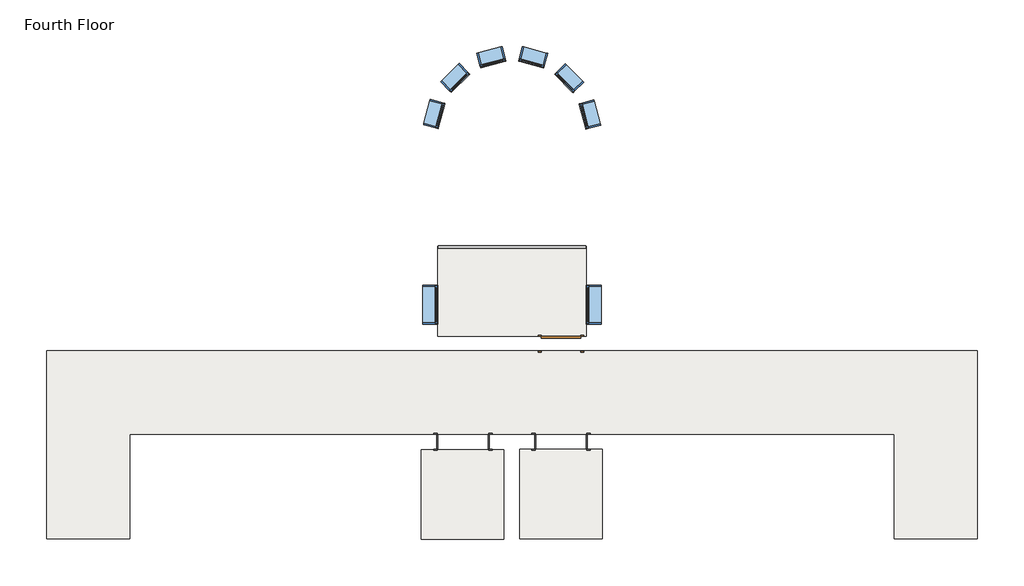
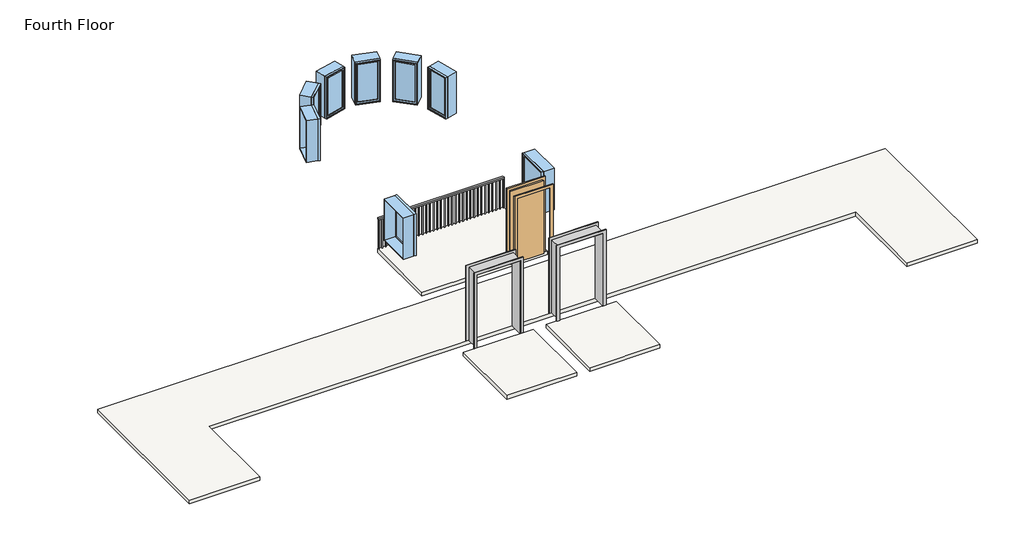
# One storey: 8 windows, 2 proxies, 1 door, 1 railing, 1 slab.
"""IFC4 building model written with IfcOpenShell, lengths in millimetres."""

import ifcopenshell
import ifcopenshell.guid

model = None  # the IFC model being written
_history = None  # IfcOwnerHistory: only IFC2X3 demands one
_inside = {}  # id of a spatial element -> (the spatial element, [elements in it])
_under = {}  # id of a project, library or spatial element -> (it, [spatial elements below it])
_declared = {}  # id of a project -> (the project, [libraries it declares])
_typed = {}  # id of a type object -> (the type object, [elements of that type])
_made_of = {}  # id of a material, layer set ... -> (it, [elements and type objects made of it])


def new_model(schema):
    """Start an empty IFC model of exactly this schema.

    Asked for "IFC4X3", IfcOpenShell would pick the latest addendum, in which some entities
    have other attributes; the version numbers below select the first issue.
    IFC2X3 requires an IfcOwnerHistory on every rooted entity: one is made here for all.
    """
    global model, _history
    if schema == "IFC4X3":
        model = ifcopenshell.file(schema_version=(4, 3, 0, 0))
    else:
        model = ifcopenshell.file(schema=schema)
    _inside.clear()
    _under.clear()
    _declared.clear()
    _typed.clear()
    _made_of.clear()
    _history = None
    if model.schema == "IFC2X3":
        org = make("IfcOrganization", Name="unknown")
        user = make(
            "IfcPersonAndOrganization",
            ThePerson=make("IfcPerson", FamilyName="unknown"),
            TheOrganization=org,
        )
        app = make(
            "IfcApplication",
            ApplicationDeveloper=org,
            Version="unknown",
            ApplicationFullName="unknown",
            ApplicationIdentifier="unknown",
        )
        _history = make(
            "IfcOwnerHistory",
            OwningUser=user,
            OwningApplication=app,
            ChangeAction="ADDED",
            CreationDate=0,
        )
    return model


def make(cls, **values):
    """One entity of the class cls with the attributes given. An attribute that is None is left unset."""
    return model.create_entity(
        cls, **{name: value for name, value in values.items() if value is not None}
    )


def rooted(cls, **values):
    """An entity with a GlobalId (a new one), such as an element, a storey or a relation."""
    return make(cls, GlobalId=ifcopenshell.guid.new(), OwnerHistory=_history, **values)


def si_unit(unit_type, name, prefix=None):
    """IfcSIUnit, for example si_unit("LENGTHUNIT", "METRE", prefix="MILLI")."""
    return make("IfcSIUnit", UnitType=unit_type, Prefix=prefix, Name=name)


def assignment(units):
    """IfcUnitAssignment: the units of a project."""
    return None if units is None else make("IfcUnitAssignment", Units=units)


def point(xyz):
    """IfcCartesianPoint."""
    return None if xyz is None else make("IfcCartesianPoint", Coordinates=xyz)


def direction(xyz):
    """IfcDirection."""
    return None if xyz is None else make("IfcDirection", DirectionRatios=xyz)


def frame(location, z_axis=None, x_axis=None):
    """IfcAxis2Placement3D, a coordinate frame: its origin and axes. An axis left out is left unset."""
    return make(
        "IfcAxis2Placement3D",
        Location=point(location),
        Axis=direction(z_axis),
        RefDirection=direction(x_axis),
    )


def origin():
    """The frame at (0, 0, 0) with its axes left unset."""
    return frame((0.0, 0.0, 0.0))


def origin_with_axes():
    """The frame at (0, 0, 0) with the z axis (0, 0, 1) and the x axis (1, 0, 0) written out."""
    return frame((0.0, 0.0, 0.0), z_axis=(0.0, 0.0, 1.0), x_axis=(1.0, 0.0, 0.0))


def place(relative_to, where):
    """IfcLocalPlacement: puts the frame where relative to a parent placement (None: the world)."""
    return make(
        "IfcLocalPlacement", PlacementRelTo=relative_to, RelativePlacement=where
    )


def context(
    kind, dimensions, precision=None, world=None, true_north=None, identifier=None
):
    """IfcGeometricRepresentationContext, for example the 3D "Model" context."""
    return make(
        "IfcGeometricRepresentationContext",
        ContextIdentifier=identifier,
        ContextType=kind,
        CoordinateSpaceDimension=dimensions,
        Precision=precision,
        WorldCoordinateSystem=world,
        TrueNorth=true_north,
    )


def project(units=None, contexts=None):
    """IfcProject with its units and contexts."""
    return rooted(
        "IfcProject",
        Name="project",
        RepresentationContexts=contexts,
        UnitsInContext=assignment(units),
    )


def spatial(cls, under=None, at=None, **own):
    """A site, building, storey or space (cls), placed at a placement, below another one or the project."""
    s = rooted(cls, ObjectPlacement=at, **own)
    if under is not None:
        _under.setdefault(under.id(), (under, []))[1].append(s)
    return s


def polyline(points):
    """IfcPolyline through the points."""
    return make("IfcPolyline", Points=[point(p) for p in points])


def outline(outer, holes=None, kind="AREA"):
    """IfcArbitraryClosedProfileDef: a profile drawn as a closed curve; with holes, ...WithVoids."""
    if holes is None:
        return make("IfcArbitraryClosedProfileDef", ProfileType=kind, OuterCurve=outer)
    return make(
        "IfcArbitraryProfileDefWithVoids",
        ProfileType=kind,
        OuterCurve=outer,
        InnerCurves=holes,
    )


def extrude(swept, where, along, depth):
    """IfcExtrudedAreaSolid: the profile swept, set in the frame where, extruded along a direction by depth."""
    return make(
        "IfcExtrudedAreaSolid",
        SweptArea=swept,
        Position=where,
        ExtrudedDirection=direction(along),
        Depth=depth,
    )


def faces_of(points, faces, orient=None, outer=None):
    """IfcFace entities. A face is a list of loops; a loop is a list of indices into points, from 0.

    orient and outer hold one flag for each loop. By default every Orientation is true, the
    first loop of a face is its IfcFaceOuterBound and the others are IfcFaceBound.
    """
    made = []
    for i, loops in enumerate(faces):
        bounds = []
        for j, loop in enumerate(loops):
            is_outer = j == 0 if outer is None else outer[i][j]
            bounds.append(
                make(
                    "IfcFaceOuterBound" if is_outer else "IfcFaceBound",
                    Bound=make("IfcPolyLoop", Polygon=[points[k] for k in loop]),
                    Orientation=True if orient is None else orient[i][j],
                )
            )
        made.append(make("IfcFace", Bounds=bounds))
    return made


def faceted_brep(points, faces, orient=None, outer=None, voids=None):
    """IfcFacetedBrep: a solid bounded by flat faces; with voids (closed shells), ...WithVoids."""
    shared = [point(p) for p in points]
    hull = make("IfcClosedShell", CfsFaces=faces_of(shared, faces, orient, outer))
    if voids is None:
        return make("IfcFacetedBrep", Outer=hull)
    return make(
        "IfcFacetedBrepWithVoids",
        Outer=hull,
        Voids=[
            make(cls, CfsFaces=faces_of(shared, fs, o, b)) for cls, fs, o, b in voids
        ],
    )


def shape(context_of_items, identifier, shape_type, items):
    """IfcShapeRepresentation: the items that make up one representation, for example the "Body"."""
    return make(
        "IfcShapeRepresentation",
        ContextOfItems=context_of_items,
        RepresentationIdentifier=identifier,
        RepresentationType=shape_type,
        Items=items,
    )


def source(mapping_origin, context_of_items, identifier, shape_type, items):
    """IfcRepresentationMap: a shape defined once, which mapped items show again and again."""
    return make(
        "IfcRepresentationMap",
        MappingOrigin=mapping_origin,
        MappedRepresentation=shape(context_of_items, identifier, shape_type, items),
    )


def transform(
    local_origin,
    x_axis=None,
    y_axis=None,
    z_axis=None,
    scale=None,
    scale2=None,
    scale3=None,
    uniform=True,
):
    """IfcCartesianTransformationOperator3D, or its non-uniform kind. x_axis, y_axis, z_axis: its Axis1, 2, 3."""
    if uniform:
        return make(
            "IfcCartesianTransformationOperator3D",
            Axis1=direction(x_axis),
            Axis2=direction(y_axis),
            LocalOrigin=point(local_origin),
            Scale=scale,
            Axis3=direction(z_axis),
        )
    return make(
        "IfcCartesianTransformationOperator3DnonUniform",
        Axis1=direction(x_axis),
        Axis2=direction(y_axis),
        LocalOrigin=point(local_origin),
        Scale=scale,
        Axis3=direction(z_axis),
        Scale2=scale2,
        Scale3=scale3,
    )


def mapped(mapping_source, mapping_target):
    """IfcMappedItem: shows the shape of a source again, moved by a transform."""
    return make(
        "IfcMappedItem", MappingSource=mapping_source, MappingTarget=mapping_target
    )


def made_of(thing, what):
    """Note that an element or type object is made of a material, layer set ...; save() writes the relation."""
    if what is not None:
        _made_of.setdefault(what.id(), (what, []))[1].append(thing)
    return thing


def element(
    cls,
    number,
    at=None,
    inside=None,
    cuts=None,
    type_object=None,
    material=None,
    context=None,
    identifier="Body",
    shape_type=None,
    held_by="IfcProductDefinitionShape",
    body=None,
    shapes=None,
    **own,
):
    """One element of the class cls, such as IfcWall. Its Tag is "e" and its number.

    at: its placement. inside: the storey or other place that contains it. cuts: it is an
    opening in that element (IfcRelVoidsElement). A single representation is given by context,
    identifier, shape_type and body (its items); several are given by shapes. held_by: the class
    of the entity that holds the representations. save() writes the other relations.
    """
    e = rooted(cls, Tag="e%d" % number, ObjectPlacement=at, **own)
    if body is not None:
        shapes = [shape(context, identifier, shape_type, body)]
    if shapes is not None:
        e.Representation = make(held_by, Representations=shapes)
    if inside is not None:
        _inside.setdefault(inside.id(), (inside, []))[1].append(e)
    if cuts is not None:
        rooted(
            "IfcRelVoidsElement", RelatingBuildingElement=cuts, RelatedOpeningElement=e
        )
    if type_object is not None:
        _typed.setdefault(type_object.id(), (type_object, []))[1].append(e)
    return made_of(e, material)


def aggregate(whole, parts):
    """IfcRelAggregates: a whole, such as a stair, and the parts it consists of."""
    return rooted("IfcRelAggregates", RelatingObject=whole, RelatedObjects=parts)


def save(model, path):
    """Write the relations noted so far, then the file.

    IfcRelAggregates (storeys below a building ...), IfcRelContainedInSpatialStructure (elements
    in a storey), IfcRelDefinesByType, IfcRelAssociatesMaterial and IfcRelDeclares: one each for
    every whole, place, type object, material and project.
    """
    for whole, parts in _under.values():
        aggregate(whole, parts)
    for where, things in _inside.values():
        rooted(
            "IfcRelContainedInSpatialStructure",
            RelatedElements=things,
            RelatingStructure=where,
        )
    for kind, things in _typed.values():
        rooted("IfcRelDefinesByType", RelatedObjects=things, RelatingType=kind)
    for what, things in _made_of.values():
        rooted("IfcRelAssociatesMaterial", RelatedObjects=things, RelatingMaterial=what)
    for by, libraries in _declared.values():
        rooted("IfcRelDeclares", RelatingContext=by, RelatedDefinitions=libraries)
    model.write(path)


def proxy_c3589814(model_context):
    return source(origin(), model_context, "Body", "SolidModel", [
        extrude(outline(polyline([(0.0, -611.4386567), (2127.25, -611.4386567), (2127.25, 595.0613433), (0.0, 595.0613433), (0.0, 671.2613433), (2203.45, 671.2613433), (2203.45, -687.6386567), (0.0, -687.6386567), (0.0, -611.4386567)])), frame((0.0, -195.2625, 0.0), z_axis=(0.0, 1.0, 0.0), x_axis=(0.0, 0.0, 1.0)), (0.0, 0.0, 1.0), 19.05),
        extrude(outline(polyline([(0.0, 671.2613433), (2209.8, 671.2613433), (2209.8, -687.6386567), (0.0, -687.6386567), (0.0, -611.4386567), (2127.25, -611.4386567), (2127.25, 595.0613433), (0.0, 595.0613433), (0.0, 671.2613433)])), frame((0.0, 176.2125, 0.0), z_axis=(0.0, 1.0, 0.0), x_axis=(0.0, 0.0, 1.0)), (0.0, 0.0, 1.0), 19.05),
        faceted_brep([(582.3613433, 176.2125, 0.0), (601.4113433, 176.2125, 0.0), (601.4113433, -176.2125, 0.0), (582.3613433, -176.2125, 0.0), (582.3613433, 176.2125, 2114.55), (601.4113433, 176.2125, 2133.6), (601.4113433, -176.2125, 2133.6), (582.3613433, -176.2125, 2114.55), (-598.7386567, 176.2125, 2114.55), (-617.7886567, 176.2125, 2133.6), (-617.7886567, -176.2125, 2133.6), (-598.7386567, -176.2125, 2114.55), (-598.7386567, 176.2125, 0.0), (-598.7386567, -176.2125, 0.0), (-617.7886567, -176.2125, 0.0), (-617.7886567, 176.2125, 0.0)], [[[0, 1, 2, 3]], [[1, 0, 4, 5]], [[2, 1, 5, 6]], [[3, 2, 6, 7]], [[0, 3, 7, 4]], [[5, 4, 8, 9]], [[6, 5, 9, 10]], [[7, 6, 10, 11]], [[4, 7, 11, 8]], [[12, 13, 14, 15]], [[9, 8, 12, 15]], [[10, 9, 15, 14]], [[11, 10, 14, 13]], [[8, 11, 13, 12]]]),
    ])


def door_632be17d(model_context):
    return source(origin(), model_context, "Body", "SweptSolid", [
        extrude(outline(polyline([(2209.8, -533.4), (0.0, -533.4), (0.0, -457.2), (2133.6, -457.2), (2133.6, 457.2), (0.0, 457.2), (0.0, 533.4), (2209.8, 533.4), (2209.8, -533.4)])), frame((0.0, 176.2125, 0.0), z_axis=(0.0, 1.0, 0.0), x_axis=(0.0, 0.0, 1.0)), (0.0, 0.0, 1.0), 25.4),
        extrude(outline(polyline([(2209.8, 533.4), (2209.8, -533.4), (0.0, -533.4), (0.0, -457.2), (2133.6, -457.2), (2133.6, 457.2), (0.0, 457.2), (0.0, 533.4), (2209.8, 533.4)])), frame((0.0, -201.6125, 0.0), z_axis=(0.0, 1.0, 0.0), x_axis=(0.0, 0.0, 1.0)), (0.0, 0.0, 1.0), 25.4),
        extrude(outline(polyline([(457.2, 125.4125), (-457.2, 125.4125), (-457.2, 176.2125), (457.2, 176.2125), (457.2, 125.4125)])), origin_with_axes(), (0.0, 0.0, 1.0), 2133.6),
    ])


def handrail_rectangular_8cf19ee7(model_context):
    return source(origin(), model_context, "Body", "SweptSolid", [
        extrude(outline(polyline([(-7973.2053686, 6951.1758812), (-7973.2053686, 7001.9758812), (-4518.0245688, 7001.9758812), (-4518.0245688, 6951.1758812), (-7973.2053686, 6951.1758812)])), frame((0.0, 0.0, 10007.6), z_axis=(0.0, 0.0, 1.0), x_axis=(1.0, 0.0, 0.0)), (0.0, 0.0, 1.0), 50.8),
        extrude(outline(polyline([(-4528.3303686, 6967.0508812), (-4528.3303686, 6986.1008812), (-4509.2803686, 6986.1008812), (-4509.2803686, 6967.0508812), (-4528.3303686, 6967.0508812)])), frame((0.0, 0.0, 9144.0), z_axis=(0.0, 0.0, 1.0), x_axis=(1.0, 0.0, 0.0)), (0.0, 0.0, 1.0), 863.6),
        extrude(outline(polyline([(-4629.9303686, 6967.0508812), (-4629.9303686, 6986.1008812), (-4610.8803686, 6986.1008812), (-4610.8803686, 6967.0508812), (-4629.9303686, 6967.0508812)])), frame((0.0, 0.0, 9144.0), z_axis=(0.0, 0.0, 1.0), x_axis=(1.0, 0.0, 0.0)), (0.0, 0.0, 1.0), 863.6),
        extrude(outline(polyline([(-4731.5303686, 6967.0508812), (-4731.5303686, 6986.1008812), (-4712.4803686, 6986.1008812), (-4712.4803686, 6967.0508812), (-4731.5303686, 6967.0508812)])), frame((0.0, 0.0, 9144.0), z_axis=(0.0, 0.0, 1.0), x_axis=(1.0, 0.0, 0.0)), (0.0, 0.0, 1.0), 863.6),
        extrude(outline(polyline([(-4833.1303686, 6967.0508812), (-4833.1303686, 6986.1008812), (-4814.0803686, 6986.1008812), (-4814.0803686, 6967.0508812), (-4833.1303686, 6967.0508812)])), frame((0.0, 0.0, 9144.0), z_axis=(0.0, 0.0, 1.0), x_axis=(1.0, 0.0, 0.0)), (0.0, 0.0, 1.0), 863.6),
        extrude(outline(polyline([(-4934.7303686, 6967.0508812), (-4934.7303686, 6986.1008812), (-4915.6803686, 6986.1008812), (-4915.6803686, 6967.0508812), (-4934.7303686, 6967.0508812)])), frame((0.0, 0.0, 9144.0), z_axis=(0.0, 0.0, 1.0), x_axis=(1.0, 0.0, 0.0)), (0.0, 0.0, 1.0), 863.6),
        extrude(outline(polyline([(-5036.3303686, 6967.0508812), (-5036.3303686, 6986.1008812), (-5017.2803686, 6986.1008812), (-5017.2803686, 6967.0508812), (-5036.3303686, 6967.0508812)])), frame((0.0, 0.0, 9144.0), z_axis=(0.0, 0.0, 1.0), x_axis=(1.0, 0.0, 0.0)), (0.0, 0.0, 1.0), 863.6),
        extrude(outline(polyline([(-5137.9303686, 6967.0508812), (-5137.9303686, 6986.1008812), (-5118.8803686, 6986.1008812), (-5118.8803686, 6967.0508812), (-5137.9303686, 6967.0508812)])), frame((0.0, 0.0, 9144.0), z_axis=(0.0, 0.0, 1.0), x_axis=(1.0, 0.0, 0.0)), (0.0, 0.0, 1.0), 863.6),
        extrude(outline(polyline([(-5239.5303686, 6967.0508812), (-5239.5303686, 6986.1008812), (-5220.4803686, 6986.1008812), (-5220.4803686, 6967.0508812), (-5239.5303686, 6967.0508812)])), frame((0.0, 0.0, 9144.0), z_axis=(0.0, 0.0, 1.0), x_axis=(1.0, 0.0, 0.0)), (0.0, 0.0, 1.0), 863.6),
        extrude(outline(polyline([(-5341.1303686, 6967.0508812), (-5341.1303686, 6986.1008812), (-5322.0803686, 6986.1008812), (-5322.0803686, 6967.0508812), (-5341.1303686, 6967.0508812)])), frame((0.0, 0.0, 9144.0), z_axis=(0.0, 0.0, 1.0), x_axis=(1.0, 0.0, 0.0)), (0.0, 0.0, 1.0), 863.6),
        extrude(outline(polyline([(-5442.7303686, 6967.0508812), (-5442.7303686, 6986.1008812), (-5423.6803686, 6986.1008812), (-5423.6803686, 6967.0508812), (-5442.7303686, 6967.0508812)])), frame((0.0, 0.0, 9144.0), z_axis=(0.0, 0.0, 1.0), x_axis=(1.0, 0.0, 0.0)), (0.0, 0.0, 1.0), 863.6),
        extrude(outline(polyline([(-5544.3303686, 6967.0508812), (-5544.3303686, 6986.1008812), (-5525.2803686, 6986.1008812), (-5525.2803686, 6967.0508812), (-5544.3303686, 6967.0508812)])), frame((0.0, 0.0, 9144.0), z_axis=(0.0, 0.0, 1.0), x_axis=(1.0, 0.0, 0.0)), (0.0, 0.0, 1.0), 863.6),
        extrude(outline(polyline([(-5645.9303686, 6967.0508812), (-5645.9303686, 6986.1008812), (-5626.8803686, 6986.1008812), (-5626.8803686, 6967.0508812), (-5645.9303686, 6967.0508812)])), frame((0.0, 0.0, 9144.0), z_axis=(0.0, 0.0, 1.0), x_axis=(1.0, 0.0, 0.0)), (0.0, 0.0, 1.0), 863.6),
        extrude(outline(polyline([(-5747.5303686, 6967.0508812), (-5747.5303686, 6986.1008812), (-5728.4803686, 6986.1008812), (-5728.4803686, 6967.0508812), (-5747.5303686, 6967.0508812)])), frame((0.0, 0.0, 9144.0), z_axis=(0.0, 0.0, 1.0), x_axis=(1.0, 0.0, 0.0)), (0.0, 0.0, 1.0), 863.6),
        extrude(outline(polyline([(-5849.1303686, 6967.0508812), (-5849.1303686, 6986.1008812), (-5830.0803686, 6986.1008812), (-5830.0803686, 6967.0508812), (-5849.1303686, 6967.0508812)])), frame((0.0, 0.0, 9144.0), z_axis=(0.0, 0.0, 1.0), x_axis=(1.0, 0.0, 0.0)), (0.0, 0.0, 1.0), 863.6),
        extrude(outline(polyline([(-5950.7303686, 6967.0508812), (-5950.7303686, 6986.1008812), (-5931.6803686, 6986.1008812), (-5931.6803686, 6967.0508812), (-5950.7303686, 6967.0508812)])), frame((0.0, 0.0, 9144.0), z_axis=(0.0, 0.0, 1.0), x_axis=(1.0, 0.0, 0.0)), (0.0, 0.0, 1.0), 863.6),
        extrude(outline(polyline([(-6052.3303686, 6967.0508812), (-6052.3303686, 6986.1008812), (-6033.2803686, 6986.1008812), (-6033.2803686, 6967.0508812), (-6052.3303686, 6967.0508812)])), frame((0.0, 0.0, 9144.0), z_axis=(0.0, 0.0, 1.0), x_axis=(1.0, 0.0, 0.0)), (0.0, 0.0, 1.0), 863.6),
        extrude(outline(polyline([(-6153.9303686, 6967.0508812), (-6153.9303686, 6986.1008812), (-6134.8803686, 6986.1008812), (-6134.8803686, 6967.0508812), (-6153.9303686, 6967.0508812)])), frame((0.0, 0.0, 9144.0), z_axis=(0.0, 0.0, 1.0), x_axis=(1.0, 0.0, 0.0)), (0.0, 0.0, 1.0), 863.6),
        extrude(outline(polyline([(-6255.5303686, 6967.0508812), (-6255.5303686, 6986.1008812), (-6236.4803686, 6986.1008812), (-6236.4803686, 6967.0508812), (-6255.5303686, 6967.0508812)])), frame((0.0, 0.0, 9144.0), z_axis=(0.0, 0.0, 1.0), x_axis=(1.0, 0.0, 0.0)), (0.0, 0.0, 1.0), 863.6),
        extrude(outline(polyline([(-6357.1303686, 6967.0508812), (-6357.1303686, 6986.1008812), (-6338.0803686, 6986.1008812), (-6338.0803686, 6967.0508812), (-6357.1303686, 6967.0508812)])), frame((0.0, 0.0, 9144.0), z_axis=(0.0, 0.0, 1.0), x_axis=(1.0, 0.0, 0.0)), (0.0, 0.0, 1.0), 863.6),
        extrude(outline(polyline([(-6458.7303686, 6967.0508812), (-6458.7303686, 6986.1008812), (-6439.6803686, 6986.1008812), (-6439.6803686, 6967.0508812), (-6458.7303686, 6967.0508812)])), frame((0.0, 0.0, 9144.0), z_axis=(0.0, 0.0, 1.0), x_axis=(1.0, 0.0, 0.0)), (0.0, 0.0, 1.0), 863.6),
        extrude(outline(polyline([(-6560.3303686, 6967.0508812), (-6560.3303686, 6986.1008812), (-6541.2803686, 6986.1008812), (-6541.2803686, 6967.0508812), (-6560.3303686, 6967.0508812)])), frame((0.0, 0.0, 9144.0), z_axis=(0.0, 0.0, 1.0), x_axis=(1.0, 0.0, 0.0)), (0.0, 0.0, 1.0), 863.6),
        extrude(outline(polyline([(-6661.9303686, 6967.0508812), (-6661.9303686, 6986.1008812), (-6642.8803686, 6986.1008812), (-6642.8803686, 6967.0508812), (-6661.9303686, 6967.0508812)])), frame((0.0, 0.0, 9144.0), z_axis=(0.0, 0.0, 1.0), x_axis=(1.0, 0.0, 0.0)), (0.0, 0.0, 1.0), 863.6),
        extrude(outline(polyline([(-6763.5303686, 6967.0508812), (-6763.5303686, 6986.1008812), (-6744.4803686, 6986.1008812), (-6744.4803686, 6967.0508812), (-6763.5303686, 6967.0508812)])), frame((0.0, 0.0, 9144.0), z_axis=(0.0, 0.0, 1.0), x_axis=(1.0, 0.0, 0.0)), (0.0, 0.0, 1.0), 863.6),
        extrude(outline(polyline([(-6865.1303686, 6967.0508812), (-6865.1303686, 6986.1008812), (-6846.0803686, 6986.1008812), (-6846.0803686, 6967.0508812), (-6865.1303686, 6967.0508812)])), frame((0.0, 0.0, 9144.0), z_axis=(0.0, 0.0, 1.0), x_axis=(1.0, 0.0, 0.0)), (0.0, 0.0, 1.0), 863.6),
        extrude(outline(polyline([(-6966.7303686, 6967.0508812), (-6966.7303686, 6986.1008812), (-6947.6803686, 6986.1008812), (-6947.6803686, 6967.0508812), (-6966.7303686, 6967.0508812)])), frame((0.0, 0.0, 9144.0), z_axis=(0.0, 0.0, 1.0), x_axis=(1.0, 0.0, 0.0)), (0.0, 0.0, 1.0), 863.6),
        extrude(outline(polyline([(-7068.3303686, 6967.0508812), (-7068.3303686, 6986.1008812), (-7049.2803686, 6986.1008812), (-7049.2803686, 6967.0508812), (-7068.3303686, 6967.0508812)])), frame((0.0, 0.0, 9144.0), z_axis=(0.0, 0.0, 1.0), x_axis=(1.0, 0.0, 0.0)), (0.0, 0.0, 1.0), 863.6),
        extrude(outline(polyline([(-7169.9303686, 6967.0508812), (-7169.9303686, 6986.1008812), (-7150.8803686, 6986.1008812), (-7150.8803686, 6967.0508812), (-7169.9303686, 6967.0508812)])), frame((0.0, 0.0, 9144.0), z_axis=(0.0, 0.0, 1.0), x_axis=(1.0, 0.0, 0.0)), (0.0, 0.0, 1.0), 863.6),
        extrude(outline(polyline([(-7271.5303686, 6967.0508812), (-7271.5303686, 6986.1008812), (-7252.4803686, 6986.1008812), (-7252.4803686, 6967.0508812), (-7271.5303686, 6967.0508812)])), frame((0.0, 0.0, 9144.0), z_axis=(0.0, 0.0, 1.0), x_axis=(1.0, 0.0, 0.0)), (0.0, 0.0, 1.0), 863.6),
        extrude(outline(polyline([(-7373.1303686, 6967.0508812), (-7373.1303686, 6986.1008812), (-7354.0803686, 6986.1008812), (-7354.0803686, 6967.0508812), (-7373.1303686, 6967.0508812)])), frame((0.0, 0.0, 9144.0), z_axis=(0.0, 0.0, 1.0), x_axis=(1.0, 0.0, 0.0)), (0.0, 0.0, 1.0), 863.6),
        extrude(outline(polyline([(-7474.7303686, 6967.0508812), (-7474.7303686, 6986.1008812), (-7455.6803686, 6986.1008812), (-7455.6803686, 6967.0508812), (-7474.7303686, 6967.0508812)])), frame((0.0, 0.0, 9144.0), z_axis=(0.0, 0.0, 1.0), x_axis=(1.0, 0.0, 0.0)), (0.0, 0.0, 1.0), 863.6),
        extrude(outline(polyline([(-7576.3303686, 6967.0508812), (-7576.3303686, 6986.1008812), (-7557.2803686, 6986.1008812), (-7557.2803686, 6967.0508812), (-7576.3303686, 6967.0508812)])), frame((0.0, 0.0, 9144.0), z_axis=(0.0, 0.0, 1.0), x_axis=(1.0, 0.0, 0.0)), (0.0, 0.0, 1.0), 863.6),
        extrude(outline(polyline([(-7677.9303686, 6967.0508812), (-7677.9303686, 6986.1008812), (-7658.8803686, 6986.1008812), (-7658.8803686, 6967.0508812), (-7677.9303686, 6967.0508812)])), frame((0.0, 0.0, 9144.0), z_axis=(0.0, 0.0, 1.0), x_axis=(1.0, 0.0, 0.0)), (0.0, 0.0, 1.0), 863.6),
        extrude(outline(polyline([(-7779.5303686, 6967.0508812), (-7779.5303686, 6986.1008812), (-7760.4803686, 6986.1008812), (-7760.4803686, 6967.0508812), (-7779.5303686, 6967.0508812)])), frame((0.0, 0.0, 9144.0), z_axis=(0.0, 0.0, 1.0), x_axis=(1.0, 0.0, 0.0)), (0.0, 0.0, 1.0), 863.6),
        extrude(outline(polyline([(-7881.1303686, 6967.0508812), (-7881.1303686, 6986.1008812), (-7862.0803686, 6986.1008812), (-7862.0803686, 6967.0508812), (-7881.1303686, 6967.0508812)])), frame((0.0, 0.0, 9144.0), z_axis=(0.0, 0.0, 1.0), x_axis=(1.0, 0.0, 0.0)), (0.0, 0.0, 1.0), 863.6),
        extrude(outline(polyline([(-4537.0745688, 6967.0508812), (-4537.0745688, 6986.1008812), (-4518.0245688, 6986.1008812), (-4518.0245688, 6967.0508812), (-4537.0745688, 6967.0508812)])), frame((0.0, 0.0, 9144.0), z_axis=(0.0, 0.0, 1.0), x_axis=(1.0, 0.0, 0.0)), (0.0, 0.0, 1.0), 863.6),
        extrude(outline(polyline([(-7973.2053686, 6967.0508812), (-7973.2053686, 6986.1008812), (-7954.1553686, 6986.1008812), (-7954.1553686, 6967.0508812), (-7973.2053686, 6967.0508812)])), frame((0.0, 0.0, 9144.0), z_axis=(0.0, 0.0, 1.0), x_axis=(1.0, 0.0, 0.0)), (0.0, 0.0, 1.0), 863.6),
    ])


def window_60baf983(model_context):
    return source(origin(), model_context, "Body", "SweptSolid", [
        extrude(outline(polyline([(203.2, 128.5875), (-279.4, 128.5875), (-279.4, 141.2875), (203.2, 141.2875), (203.2, 128.5875)])), frame((0.0, 0.0, 977.9), z_axis=(0.0, 0.0, 1.0), x_axis=(1.0, 0.0, 0.0)), (0.0, 0.0, 1.0), 1092.2),
        extrude(outline(polyline([(2114.55, -323.85), (933.45, -323.85), (933.45, 247.65), (2114.55, 247.65), (2114.55, -323.85)]), holes=[polyline([(2070.1, -279.4), (2070.1, 203.2), (977.9, 203.2), (977.9, -279.4), (2070.1, -279.4)])]), frame((0.0, 112.7125, 0.0), z_axis=(0.0, 1.0, 0.0), x_axis=(0.0, 0.0, 1.0)), (0.0, 0.0, 1.0), 44.45),
        extrude(outline(polyline([(2133.6, -342.9), (914.4, -342.9), (914.4, 266.7), (2133.6, 266.7), (2133.6, -342.9)]), holes=[polyline([(2101.85, -311.15), (2101.85, 234.95), (946.15, 234.95), (946.15, -311.15), (2101.85, -311.15)])]), frame((0.0, -176.2125, 0.0), z_axis=(0.0, 1.0, 0.0), x_axis=(0.0, 0.0, 1.0)), (0.0, 0.0, 1.0), 288.925),
        extrude(outline(polyline([(2133.6, 266.7), (2133.6, -342.9), (914.4, -342.9), (914.4, 266.7), (2133.6, 266.7)]), holes=[polyline([(2114.55, 247.65), (933.45, 247.65), (933.45, -323.85), (2114.55, -323.85), (2114.55, 247.65)])]), frame((0.0, 112.7125, 0.0), z_axis=(0.0, 1.0, 0.0), x_axis=(0.0, 0.0, 1.0)), (0.0, 0.0, 1.0), 63.5),
    ])


def window_15c49d37(model_context):
    return source(origin(), model_context, "Body", "SweptSolid", [
        extrude(outline(polyline([(355.6, 128.5875), (-431.8, 128.5875), (-431.8, 141.2875), (355.6, 141.2875), (355.6, 128.5875)])), frame((0.0, 0.0, 977.9), z_axis=(0.0, 0.0, 1.0), x_axis=(1.0, 0.0, 0.0)), (0.0, 0.0, 1.0), 1092.2),
        extrude(outline(polyline([(2114.55, -476.25), (933.45, -476.25), (933.45, 400.05), (2114.55, 400.05), (2114.55, -476.25)]), holes=[polyline([(2070.1, -431.8), (2070.1, 355.6), (977.9, 355.6), (977.9, -431.8), (2070.1, -431.8)])]), frame((0.0, 112.7125, 0.0), z_axis=(0.0, 1.0, 0.0), x_axis=(0.0, 0.0, 1.0)), (0.0, 0.0, 1.0), 44.45),
        extrude(outline(polyline([(2133.6, -495.3), (914.4, -495.3), (914.4, 419.1), (2133.6, 419.1), (2133.6, -495.3)]), holes=[polyline([(2101.85, -463.55), (2101.85, 387.35), (946.15, 387.35), (946.15, -463.55), (2101.85, -463.55)])]), frame((0.0, -176.2125, 0.0), z_axis=(0.0, 1.0, 0.0), x_axis=(0.0, 0.0, 1.0)), (0.0, 0.0, 1.0), 288.925),
        extrude(outline(polyline([(2133.6, 419.1), (2133.6, -495.3), (914.4, -495.3), (914.4, 419.1), (2133.6, 419.1)]), holes=[polyline([(2114.55, 400.05), (933.45, 400.05), (933.45, -476.25), (2114.55, -476.25), (2114.55, 400.05)])]), frame((0.0, 112.7125, 0.0), z_axis=(0.0, 1.0, 0.0), x_axis=(0.0, 0.0, 1.0)), (0.0, 0.0, 1.0), 63.5),
    ])


model = new_model("IFC4")

# Units and contexts
model_context = context("Model", 3, world=origin())
ifc_project = project(units=[si_unit("LENGTHUNIT", "METRE", prefix="MILLI")], contexts=[model_context])

# Site, building, storey
site = spatial("IfcSite", under=ifc_project)
building = spatial("IfcBuilding", under=site)
storey = spatial("IfcBuildingStorey", under=building, Name="Fourth Floor", Elevation=9144.0)

# Proxies
placement = place(None, origin())
proxy_shape = proxy_c3589814(model_context)
element("IfcBuildingElementProxy", 1, Name="Opening-Cased : 48\" x 84\"", ObjectType="Opening-Cased : 48\" x 84\"", at=placement, inside=storey, context=model_context, shape_type="MappedRepresentation", body=[
    mapped(proxy_shape, transform((-7396.8036255, 2429.9758812, 9144.0), x_axis=(-1.0, 0.0, 0.0), y_axis=(0.0, -1.0, 0.0), z_axis=(0.0, 0.0, 1.0))),
])
element("IfcBuildingElementProxy", 2, Name="Opening-Cased : 48\" x 84\"", ObjectType="Opening-Cased : 48\" x 84\"", at=placement, inside=storey, context=model_context, shape_type="MappedRepresentation", body=[
    mapped(proxy_shape, transform((-5110.8036255, 2429.9758812, 9144.0), x_axis=(-1.0, 0.0, 0.0), y_axis=(0.0, -1.0, 0.0), z_axis=(0.0, 0.0, 1.0))),
])

# Door
door_shape = door_632be17d(model_context)
element("IfcDoor", 3, ObjectType="Single-Flush : 36\" x 84\"", at=placement, inside=storey, context=model_context, shape_type="MappedRepresentation", body=[
    mapped(door_shape, transform((-5102.6149687, 4715.9758812, 9144.0), x_axis=(1.0, 0.0, 0.0), y_axis=(0.0, 1.0, 0.0), z_axis=(0.0, 0.0, 1.0))),
])

# Railing
handrail_rectangular_shape = handrail_rectangular_8cf19ee7(model_context)
element("IfcRailing", 4, ObjectType="Handrail - Rectangular", at=placement, inside=storey, context=model_context, shape_type="MappedRepresentation", body=[
    mapped(handrail_rectangular_shape, transform((0.0, 0.0, 0.0), x_axis=(1.0, 0.0, 0.0), y_axis=(0.0, 1.0, 0.0), z_axis=(0.0, 0.0, 1.0))),
])

# Slab
element("IfcSlab", 5, ObjectType="LW Concrete on Metal Deck", at=placement, inside=storey, context=model_context, shape_type="SweptSolid", body=[
    extrude(outline(polyline([(-17118.4024687, 4552.4633812), (4627.1725313, 4552.4633812), (4627.1725313, 167.7883812), (2680.8975313, 167.7883812), (2680.8975313, 2606.1883812), (-15172.1274687, 2606.1883812), (-15172.1274687, 167.7883812), (-17118.4024687, 167.7883812), (-17118.4024687, 4552.4633812)])), frame((0.0, 0.0, 9039.225), z_axis=(0.0, 0.0, 1.0), x_axis=(1.0, 0.0, 0.0)), (0.0, 0.0, 1.0), 104.775),
    extrude(outline(polyline([(-8368.1024687, 155.0883812), (-8368.1024687, 2237.8883812), (-6437.7024687, 2237.8883812), (-6437.7024687, 155.0883812), (-8368.1024687, 155.0883812)])), frame((0.0, 0.0, 9039.225), z_axis=(0.0, 0.0, 1.0), x_axis=(1.0, 0.0, 0.0)), (0.0, 0.0, 1.0), 104.775),
    extrude(outline(polyline([(-4135.8274687, 2253.7633812), (-4135.8274687, 167.7883812), (-6069.4024687, 167.7883812), (-6069.4024687, 2253.7633812), (-4135.8274687, 2253.7633812)])), frame((0.0, 0.0, 9039.225), z_axis=(0.0, 0.0, 1.0), x_axis=(1.0, 0.0, 0.0)), (0.0, 0.0, 1.0), 104.775),
    extrude(outline(polyline([(-4516.8274687, 7001.9758812), (-4516.8274687, 4892.1883812), (-7974.4024687, 4892.1883812), (-7974.4024687, 7001.9758812), (-4516.8274687, 7001.9758812)])), frame((0.0, 0.0, 9039.225), z_axis=(0.0, 0.0, 1.0), x_axis=(1.0, 0.0, 0.0)), (0.0, 0.0, 1.0), 104.775),
])

# Windows
window_shape = window_60baf983(model_context)
element("IfcWindow", 6, ObjectType="Fixed : 24\" x 48\"", at=placement, inside=storey, context=model_context, shape_type="MappedRepresentation", body=[
    mapped(window_shape, transform((-8072.5076754, 10048.7859441, 9144.0), x_axis=(-0.2617614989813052, -0.9651325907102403, 0.0), y_axis=(0.9651325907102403, -0.2617614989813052, 0.0), z_axis=(0.0, 0.0, 1.0))),
])
element("IfcWindow", 7, ObjectType="Fixed : 24\" x 48\"", at=placement, inside=storey, context=model_context, shape_type="MappedRepresentation", body=[
    mapped(window_shape, transform((-7599.7454312, 10901.1385333, 9144.0), x_axis=(-0.7092584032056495, -0.7049485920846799, 0.0), y_axis=(0.7049485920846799, -0.7092584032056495, 0.0), z_axis=(0.0, 0.0, 1.0))),
])
element("IfcWindow", 8, ObjectType="Fixed : 24\" x 48\"", at=placement, inside=storey, context=model_context, shape_type="MappedRepresentation", body=[
    mapped(window_shape, transform((-6764.1450232, 11402.9164066, 9144.0), x_axis=(-0.96671009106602, -0.25587418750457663, 0.0), y_axis=(0.25587418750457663, -0.96671009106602, 0.0), z_axis=(0.0, 0.0, 1.0))),
])
element("IfcWindow", 9, ObjectType="Fixed : 24\" x 48\"", at=placement, inside=storey, context=model_context, shape_type="MappedRepresentation", body=[
    mapped(window_shape, transform((-5789.6049059, 11419.6685878, 9144.0), x_axis=(-0.9651325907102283, 0.2617614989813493, 0.0), y_axis=(-0.2617614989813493, -0.9651325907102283, 0.0), z_axis=(0.0, 0.0, 1.0))),
])
element("IfcWindow", 10, ObjectType="Fixed : 24\" x 48\"", at=placement, inside=storey, context=model_context, shape_type="MappedRepresentation", body=[
    mapped(window_shape, transform((-4937.2523166, 10946.9063437, 9144.0), x_axis=(-0.7049485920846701, 0.7092584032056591, 0.0), y_axis=(-0.7092584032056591, -0.7049485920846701, 0.0), z_axis=(0.0, 0.0, 1.0))),
])
element("IfcWindow", 11, ObjectType="Fixed : 24\" x 48\"", at=placement, inside=storey, context=model_context, shape_type="MappedRepresentation", body=[
    mapped(window_shape, transform((-4435.4744434, 10111.3059357, 9144.0), x_axis=(-0.25587418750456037, 0.9667100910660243, 0.0), y_axis=(-0.9667100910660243, -0.25587418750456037, 0.0), z_axis=(0.0, 0.0, 1.0))),
])
window_2_shape = window_15c49d37(model_context)
element("IfcWindow", 12, ObjectType="Fixed : 36\" x 48\"", at=placement, inside=storey, context=model_context, shape_type="MappedRepresentation", body=[
    mapped(window_2_shape, transform((-8150.6149687, 5592.2758812, 9144.0), x_axis=(0.0, -1.0, 0.0), y_axis=(1.0, 0.0, 0.0), z_axis=(0.0, 0.0, 1.0))),
])
element("IfcWindow", 13, ObjectType="Fixed : 36\" x 48\"", at=placement, inside=storey, context=model_context, shape_type="MappedRepresentation", body=[
    mapped(window_2_shape, transform((-4340.6149687, 5668.4758812, 9144.0), x_axis=(0.0, 1.0, 0.0), y_axis=(-1.0, 0.0, 0.0), z_axis=(0.0, 0.0, 1.0))),
])

save(model, "model.ifc")
